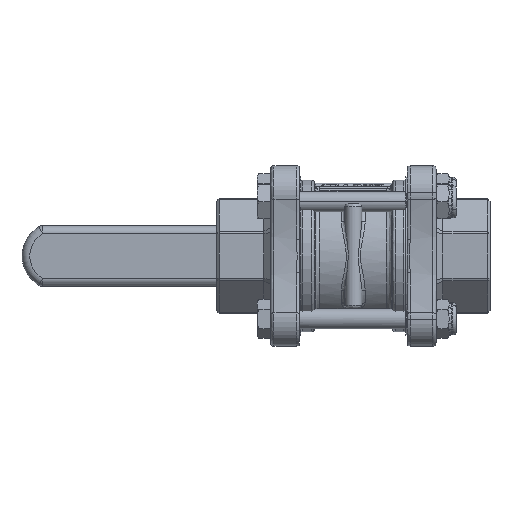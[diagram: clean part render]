
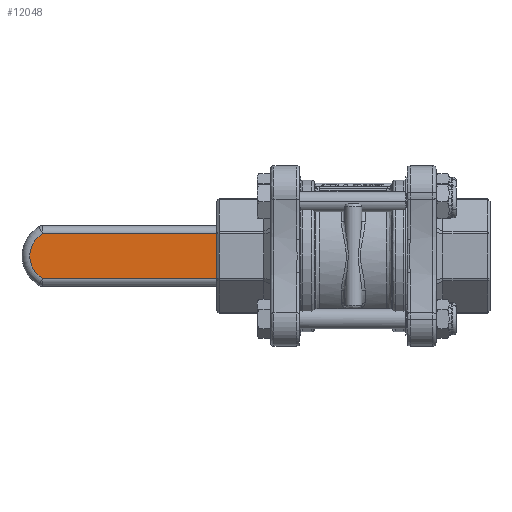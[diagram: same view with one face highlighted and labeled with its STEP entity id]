
A CAD part, front view. The second image highlights one B-rep face of the part: STEP entity #12048.
In plain terms, the highlighted planar face has unit normal (0, -1, 0).
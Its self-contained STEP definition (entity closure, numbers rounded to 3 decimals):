
#12048 = ADVANCED_FACE ( 'NONE', ( #36074 ), #34278, .F. ) ;
#15049 = EDGE_LOOP ( 'NONE', ( #32047, #32049, #32051, #32053 ) ) ;
#32047 = ORIENTED_EDGE ( 'NONE', *, *, #41999, .F. ) ;
#32049 = ORIENTED_EDGE ( 'NONE', *, *, #42002, .T. ) ;
#32051 = ORIENTED_EDGE ( 'NONE', *, *, #41991, .T. ) ;
#32053 = ORIENTED_EDGE ( 'NONE', *, *, #41915, .T. ) ;
#34268 = CARTESIAN_POINT ( 'NONE',  ( 62., -2.5, -6.7 ) ) ;
#34278 = PLANE ( 'NONE',  #38315 ) ;
#34283 = DIRECTION ( 'NONE',  ( 0., 1., 0. ) ) ;
#34285 = DIRECTION ( 'NONE',  ( 0., 0., 1. ) ) ;
#36074 = FACE_OUTER_BOUND ( 'NONE', #15049, .T. ) ;
#38315 = AXIS2_PLACEMENT_3D ( 'NONE', #34268, #34283, #34285 ) ;
#41915 = EDGE_CURVE ( 'NONE', #82155, #82165, #55994, .T. ) ;
#41991 = EDGE_CURVE ( 'NONE', #82206, #82155, #56069, .T. ) ;
#41999 = EDGE_CURVE ( 'NONE', #82208, #82165, #56078, .T. ) ;
#42002 = EDGE_CURVE ( 'NONE', #82208, #82206, #56080, .T. ) ;
#55994 = LINE ( 'NONE', #68010, #56000 ) ;
#56000 = VECTOR ( 'NONE', #68006, 1000. ) ;
#56069 = LINE ( 'NONE', #68067, #56076 ) ;
#56076 = VECTOR ( 'NONE', #68068, 1000. ) ;
#56078 = LINE ( 'NONE', #68060, #56082 ) ;
#56080 = CIRCLE ( 'NONE', #68557, 7.75 ) ;
#56082 = VECTOR ( 'NONE', #68061, 1000. ) ;
#68006 = DIRECTION ( 'NONE',  ( 0., 0., -1. ) ) ;
#68010 = CARTESIAN_POINT ( 'NONE',  ( 0., -2.5, -6.7 ) ) ;
#68060 = CARTESIAN_POINT ( 'NONE',  ( 62., -2.5, -6.7 ) ) ;
#68061 = DIRECTION ( 'NONE',  ( -1., 0., 0. ) ) ;
#68067 = CARTESIAN_POINT ( 'NONE',  ( 62., -2.5, 6.7 ) ) ;
#68068 = DIRECTION ( 'NONE',  ( -1., 0., 0. ) ) ;
#68076 = CARTESIAN_POINT ( 'NONE',  ( 51.95, -2.5, 0. ) ) ;
#68077 = DIRECTION ( 'NONE',  ( 0., -1., 0. ) ) ;
#68078 = DIRECTION ( 'NONE',  ( 0., 0., 1. ) ) ;
#68557 = AXIS2_PLACEMENT_3D ( 'NONE', #68076, #68077, #68078 ) ;
#74168 = CARTESIAN_POINT ( 'NONE',  ( 0., -2.5, 6.7 ) ) ;
#74173 = CARTESIAN_POINT ( 'NONE',  ( 0., -2.5, -6.7 ) ) ;
#74192 = CARTESIAN_POINT ( 'NONE',  ( 55.845, -2.5, 6.7 ) ) ;
#74193 = CARTESIAN_POINT ( 'NONE',  ( 55.845, -2.5, -6.7 ) ) ;
#82155 = VERTEX_POINT ( 'NONE', #74168 ) ;
#82165 = VERTEX_POINT ( 'NONE', #74173 ) ;
#82206 = VERTEX_POINT ( 'NONE', #74192 ) ;
#82208 = VERTEX_POINT ( 'NONE', #74193 ) ;
